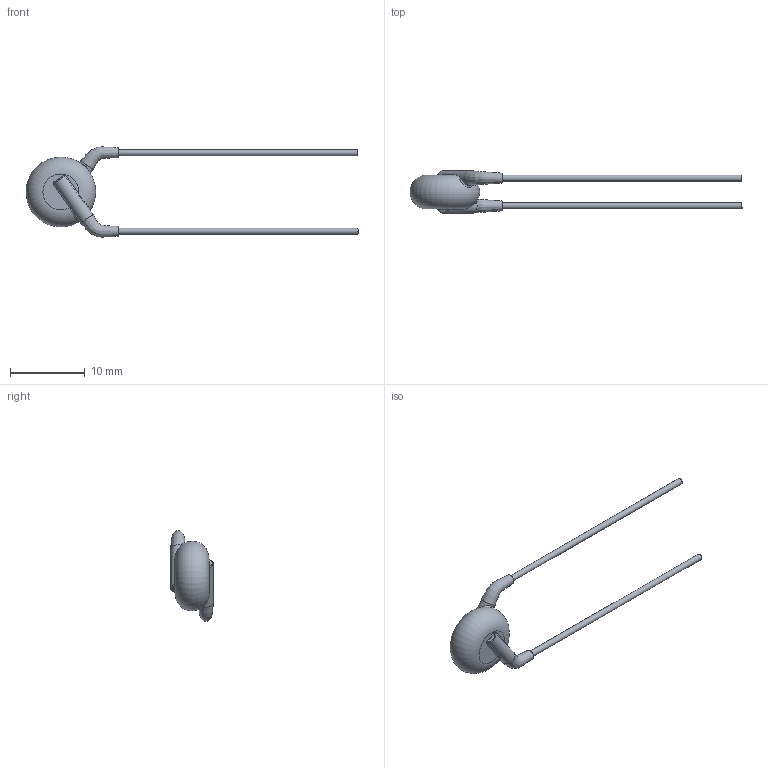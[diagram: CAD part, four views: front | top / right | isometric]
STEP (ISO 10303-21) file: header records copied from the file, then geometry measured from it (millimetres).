
FILE_DESCRIPTION(/* description */ (''),/* implementation_level */ '2;1');
FILE_NAME(/* name */ 'I:\Marketing\M6t1\3D-Models\Zchng-Werk-3\Upload for homepage\Ceramite\Y5U\440LD10-R\440LD10-R.stp',/* time_stamp */ '2016-11-10T14:07:09+01:00',/* author */ ('sheinrich'),/* organization */ (''),/* preprocessor_version */ 'ST-DEVELOPER v16.1',/* originating_system */ 'Autodesk Inventor 2016',/* authorisation */ '');
FILE_SCHEMA (('AUTOMOTIVE_DESIGN { 1 0 10303 214 3 1 1 }'));
Length unit declared in the file: millimetre
Products named in the file (1): 440LD10-R
Bounding box: 44.3 x 5.7 x 12.03 mm (x, y, z)
Volume: 319.8 mm3; surface area: 437.3 mm2
Topology: 1 solids, 1 shells, 37 faces, 80 edges, 43 vertices
Faces by surface type: bspline 12, cylinder 10, plane 8, torus 7
Full cylindrical faces by diameter (mm): 0.81 x2, 2 x2
Entity records: 1798 total; most frequent: CARTESIAN_POINT 1047, ORIENTED_EDGE 136, DIRECTION 128, EDGE_CURVE 68, AXIS2_PLACEMENT_3D 58, EDGE_LOOP 44, VERTEX_POINT 40, STYLED_ITEM 38
